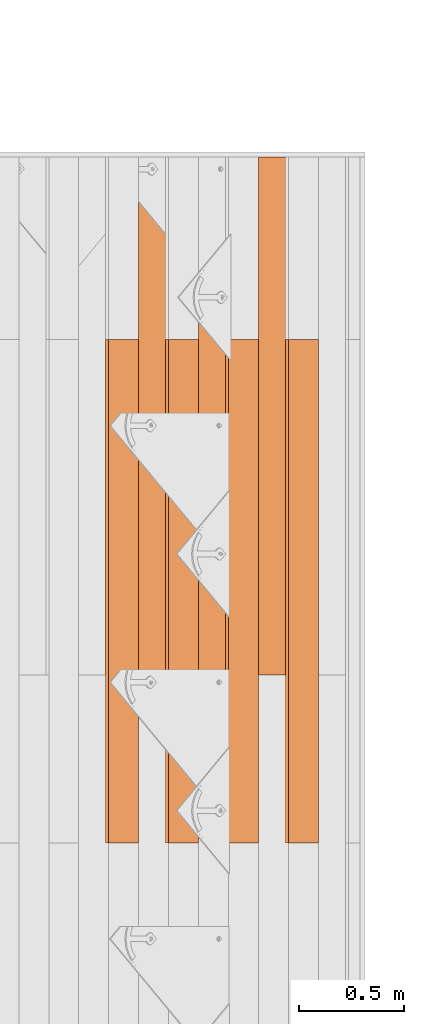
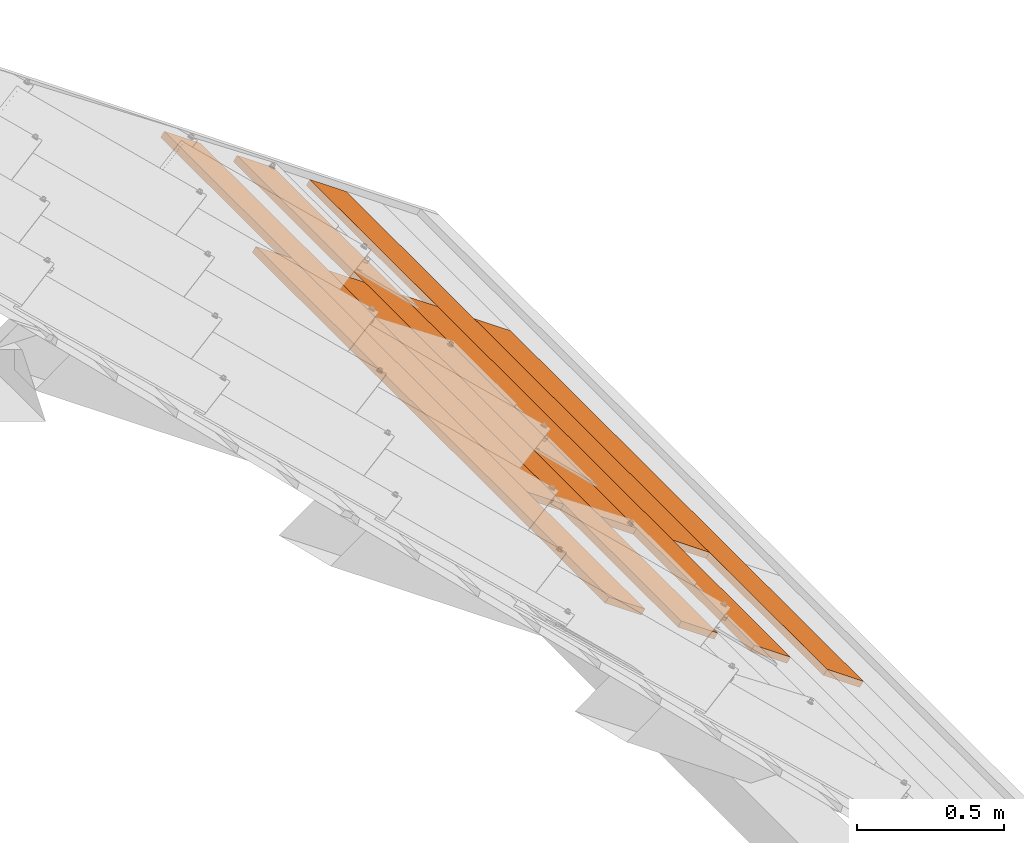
# One storey, part 106 of 151: 7 proxies, 1 element without a shape of its own.
"""IFC2X3 building model written with IfcOpenShell, lengths in millimetres."""

from ifc_helpers import new_model, entity, si_unit, converted_unit, derived_unit, direction, frame, frame_2d, origin, place, context, subcontext, project, spatial, rectangle, extrude, source, transform, mapped, material, type_object, type_shapes, element, aggregate, save


model = new_model("IFC2X3")

# Units and contexts
model_context = context("Model", 3, precision=0.01, world=origin(), true_north=direction((6.12303176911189e-17, 1.0)))
body_context = subcontext(model_context, "Body", "Model", "MODEL_VIEW")
ifc_project = project(units=[si_unit("LENGTHUNIT", "METRE", prefix="MILLI"), si_unit("AREAUNIT", "SQUARE_METRE"), si_unit("VOLUMEUNIT", "CUBIC_METRE"), converted_unit("PLANEANGLEUNIT", "DEGREE", entity("IfcRatioMeasure", 0.0174532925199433), si_unit("PLANEANGLEUNIT", "RADIAN"), dimensions=[0, 0, 0, 0, 0, 0, 0]), si_unit("MASSUNIT", "GRAM", prefix="KILO"), derived_unit("MASSDENSITYUNIT", [(si_unit("MASSUNIT", "GRAM", prefix="KILO"), 1), (si_unit("LENGTHUNIT", "METRE"), -3)]), si_unit("TIMEUNIT", "SECOND"), si_unit("FREQUENCYUNIT", "HERTZ"), si_unit("THERMODYNAMICTEMPERATUREUNIT", "DEGREE_CELSIUS"), derived_unit("THERMALTRANSMITTANCEUNIT", [(si_unit("MASSUNIT", "GRAM", prefix="KILO"), 1), (si_unit("THERMODYNAMICTEMPERATUREUNIT", "KELVIN"), -1), (si_unit("TIMEUNIT", "SECOND"), -3)]), derived_unit("VOLUMETRICFLOWRATEUNIT", [(si_unit("LENGTHUNIT", "METRE"), 3), (si_unit("TIMEUNIT", "SECOND"), -1)]), si_unit("ELECTRICCURRENTUNIT", "AMPERE"), si_unit("ELECTRICVOLTAGEUNIT", "VOLT"), si_unit("POWERUNIT", "WATT"), si_unit("FORCEUNIT", "NEWTON", prefix="KILO"), si_unit("ILLUMINANCEUNIT", "LUX"), si_unit("LUMINOUSFLUXUNIT", "LUMEN"), si_unit("LUMINOUSINTENSITYUNIT", "CANDELA"), derived_unit("USERDEFINED", [(si_unit("MASSUNIT", "GRAM", prefix="KILO"), -1), (si_unit("LENGTHUNIT", "METRE"), -2), (si_unit("TIMEUNIT", "SECOND"), 3), (si_unit("LUMINOUSFLUXUNIT", "LUMEN"), 1)]), derived_unit("LINEARVELOCITYUNIT", [(si_unit("LENGTHUNIT", "METRE"), 1), (si_unit("TIMEUNIT", "SECOND"), -1)]), si_unit("PRESSUREUNIT", "PASCAL"), derived_unit("USERDEFINED", [(si_unit("LENGTHUNIT", "METRE"), -2), (si_unit("MASSUNIT", "GRAM", prefix="KILO"), 1), (si_unit("TIMEUNIT", "SECOND"), -2)])], contexts=[model_context])

# Site, building, storey
site_placement = place(None, origin())
site = spatial("IfcSite", under=ifc_project, at=site_placement, Name="Default", CompositionType="ELEMENT")
building_placement = place(site_placement, origin())
building = spatial("IfcBuilding", under=site, at=building_placement, CompositionType="ELEMENT")
storey_placement = place(building_placement, origin())
storey = spatial("IfcBuildingStorey", under=building, at=storey_placement, Name="Level 1", CompositionType="ELEMENT", Elevation=0.0)

# Assembly, proxies
assembly_placement = place(storey_placement, origin())
assembly = element("IfcElementAssembly", 1, at=assembly_placement, inside=storey, Name="Structural Framing Assembly:Roof Construction Assembly", ObjectType="Structural Framing Assembly:Roof Construction Assembly", AssemblyPlace="NOTDEFINED", PredefinedType="USERDEFINED")
ifc_material = material(Name="Wood - Generic - Wood For Showcase")
building_element_proxy_type_1 = type_object("IfcBuildingElementProxyType", Name="Structural Framing 15", PredefinedType="NOTDEFINED", material=ifc_material)
shared_shape_1 = source(origin(), body_context, "Body", "SweptSolid", [
    extrude(rectangle(XDim=24.9999999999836, YDim=174.344679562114, at=frame_2d((2.97539770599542e-13, -4.2632564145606e-14), x_axis=(1.0, 0.0))), frame((1285.35601305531, 1525.55080214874, 2760.23940055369), z_axis=(0.0, 1.0, 0.0), x_axis=(0.573576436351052, 0.0, 0.819152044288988)), (0.0, 0.0, 1.0), 2399.99999999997),
])
type_shapes(building_element_proxy_type_1, [shared_shape_1])
proxy_1_placement = place(assembly_placement, frame((2770.96908392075, -870.0, -1900.0)))
proxy_1 = element("IfcBuildingElementProxy", 2, at=proxy_1_placement, type_object=building_element_proxy_type_1, material=ifc_material, Name="Structural Framing 250:Structural Framing 15", ObjectType="Structural Framing 250:Structural Framing 15", context=body_context, shape_type="MappedRepresentation", body=[
    mapped(shared_shape_1, transform((0.0, 0.0, 0.0), scale=1.0)),
])
building_element_proxy_type_2 = type_object("IfcBuildingElementProxyType", Name="Structural Framing 15", PredefinedType="NOTDEFINED", material=ifc_material)
shared_shape_2 = source(origin(), body_context, "Body", "SweptSolid", [
    extrude(rectangle(XDim=24.9999999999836, YDim=174.344679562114, at=frame_2d((3.73923114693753e-13, 6.3948846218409e-14), x_axis=(1.0, 0.0))), frame((1285.35601305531, 1455.55080214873, 2760.23940055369), z_axis=(0.0, 1.0, 0.0), x_axis=(0.573576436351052, 0.0, 0.819152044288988)), (0.0, 0.0, 1.0), 2469.99999999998),
])
type_shapes(building_element_proxy_type_2, [shared_shape_2])
proxy_2_placement = place(assembly_placement, frame((2913.78388459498, 0.0, -2000.0)))
proxy_2 = element("IfcBuildingElementProxy", 3, at=proxy_2_placement, type_object=building_element_proxy_type_2, material=ifc_material, Name="Structural Framing 255:Structural Framing 15", ObjectType="Structural Framing 255:Structural Framing 15", context=body_context, shape_type="MappedRepresentation", body=[
    mapped(shared_shape_2, transform((0.0, 0.0, 0.0), scale=1.0)),
])
building_element_proxy_type_3 = type_object("IfcBuildingElementProxyType", Name="Structural Framing 15", PredefinedType="NOTDEFINED", material=ifc_material)
shared_shape_3 = source(origin(), body_context, "Body", "SweptSolid", [
    extrude(rectangle(XDim=24.9999999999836, YDim=174.344679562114, at=frame_2d((2.97539770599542e-13, -4.2632564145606e-14), x_axis=(1.0, 0.0))), frame((1285.35601305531, 1525.55080214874, 2760.23940055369), z_axis=(0.0, 1.0, 0.0), x_axis=(0.573576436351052, 0.0, 0.819152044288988)), (0.0, 0.0, 1.0), 2399.99999999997),
])
type_shapes(building_element_proxy_type_3, [shared_shape_3])
proxy_3_placement = place(assembly_placement, frame((3056.5986852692, -870.0, -2100.0)))
proxy_3 = element("IfcBuildingElementProxy", 4, at=proxy_3_placement, type_object=building_element_proxy_type_3, material=ifc_material, Name="Structural Framing 260:Structural Framing 15", ObjectType="Structural Framing 260:Structural Framing 15", context=body_context, shape_type="MappedRepresentation", body=[
    mapped(shared_shape_3, transform((0.0, 0.0, 0.0), scale=1.0)),
])
building_element_proxy_type_4 = type_object("IfcBuildingElementProxyType", Name="Structural Framing 15", PredefinedType="NOTDEFINED", material=ifc_material)
shared_shape_4 = source(origin(), body_context, "Body", "SweptSolid", [
    extrude(rectangle(XDim=24.9999999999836, YDim=174.344679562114, at=frame_2d((3.73923114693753e-13, 6.3948846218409e-14), x_axis=(1.0, 0.0))), frame((1285.35601305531, 1455.55080214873, 2760.23940055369), z_axis=(0.0, 1.0, 0.0), x_axis=(0.573576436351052, 0.0, 0.819152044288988)), (0.0, 0.0, 1.0), 2469.99999999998),
])
type_shapes(building_element_proxy_type_4, [shared_shape_4])
proxy_4_placement = place(assembly_placement, frame((3199.41348594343, 0.0, -2200.0)))
proxy_4 = element("IfcBuildingElementProxy", 5, at=proxy_4_placement, type_object=building_element_proxy_type_4, material=ifc_material, Name="Structural Framing 265:Structural Framing 15", ObjectType="Structural Framing 265:Structural Framing 15", context=body_context, shape_type="MappedRepresentation", body=[
    mapped(shared_shape_4, transform((0.0, 0.0, 0.0), scale=1.0)),
])
building_element_proxy_type_5 = type_object("IfcBuildingElementProxyType", Name="Structural Framing 15", PredefinedType="NOTDEFINED", material=ifc_material)
shared_shape_5 = source(origin(), body_context, "Body", "SweptSolid", [
    extrude(rectangle(XDim=24.9999999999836, YDim=174.344679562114, at=frame_2d((2.97539770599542e-13, -4.2632564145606e-14), x_axis=(1.0, 0.0))), frame((1285.35601305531, 1525.55080214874, 2760.23940055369), z_axis=(0.0, 1.0, 0.0), x_axis=(0.573576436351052, 0.0, 0.819152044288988)), (0.0, 0.0, 1.0), 2399.99999999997),
])
type_shapes(building_element_proxy_type_5, [shared_shape_5])
proxy_5_placement = place(assembly_placement, frame((3342.22828661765, -870.0, -2300.0)))
proxy_5 = element("IfcBuildingElementProxy", 6, at=proxy_5_placement, type_object=building_element_proxy_type_5, material=ifc_material, Name="Structural Framing 270:Structural Framing 15", ObjectType="Structural Framing 270:Structural Framing 15", context=body_context, shape_type="MappedRepresentation", body=[
    mapped(shared_shape_5, transform((0.0, 0.0, 0.0), scale=1.0)),
])
building_element_proxy_type_6 = type_object("IfcBuildingElementProxyType", Name="Structural Framing 15", PredefinedType="NOTDEFINED", material=ifc_material)
shared_shape_6 = source(origin(), body_context, "Body", "SweptSolid", [
    extrude(rectangle(XDim=24.9999999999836, YDim=174.344679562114, at=frame_2d((3.73923114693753e-13, 6.3948846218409e-14), x_axis=(1.0, 0.0))), frame((1285.35601305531, 1455.55080214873, 2760.23940055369), z_axis=(0.0, 1.0, 0.0), x_axis=(0.573576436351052, 0.0, 0.819152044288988)), (0.0, 0.0, 1.0), 2469.99999999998),
])
type_shapes(building_element_proxy_type_6, [shared_shape_6])
proxy_6_placement = place(assembly_placement, frame((3485.04308729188, 0.0, -2400.0)))
proxy_6 = element("IfcBuildingElementProxy", 7, at=proxy_6_placement, type_object=building_element_proxy_type_6, material=ifc_material, Name="Structural Framing 275:Structural Framing 15", ObjectType="Structural Framing 275:Structural Framing 15", context=body_context, shape_type="MappedRepresentation", body=[
    mapped(shared_shape_6, transform((0.0, 0.0, 0.0), scale=1.0)),
])
building_element_proxy_type_7 = type_object("IfcBuildingElementProxyType", Name="Structural Framing 15", PredefinedType="NOTDEFINED", material=ifc_material)
shared_shape_7 = source(origin(), body_context, "Body", "SweptSolid", [
    extrude(rectangle(XDim=24.9999999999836, YDim=174.344679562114, at=frame_2d((2.97539770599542e-13, -4.2632564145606e-14), x_axis=(1.0, 0.0))), frame((1285.35601305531, 1525.55080214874, 2760.23940055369), z_axis=(0.0, 1.0, 0.0), x_axis=(0.573576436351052, 0.0, 0.819152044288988)), (0.0, 0.0, 1.0), 2399.99999999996),
])
type_shapes(building_element_proxy_type_7, [shared_shape_7])
proxy_7_placement = place(assembly_placement, frame((3627.8578879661, -870.0, -2500.0)))
proxy_7 = element("IfcBuildingElementProxy", 8, at=proxy_7_placement, type_object=building_element_proxy_type_7, material=ifc_material, Name="Structural Framing 280:Structural Framing 15", ObjectType="Structural Framing 280:Structural Framing 15", context=body_context, shape_type="MappedRepresentation", body=[
    mapped(shared_shape_7, transform((0.0, 0.0, 0.0), scale=1.0)),
])
aggregate(assembly, [proxy_1, proxy_2, proxy_3, proxy_4, proxy_5, proxy_6, proxy_7])

save(model, "model.ifc")
